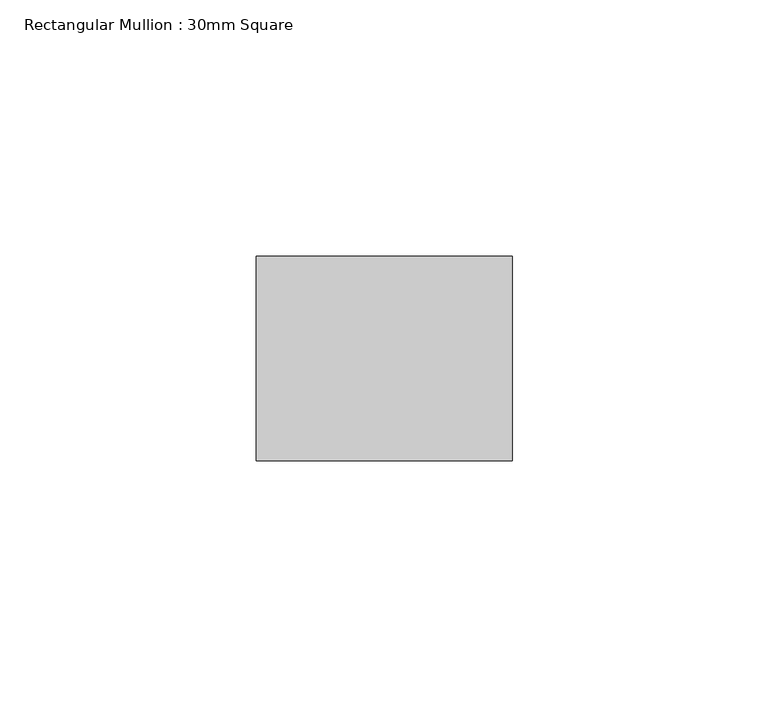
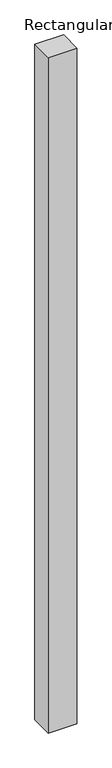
"""IFC4 building model written with IfcOpenShell, lengths in millimetres: member geometry, Rectangular Mullion : 30mm Square."""

import ifcopenshell
import ifcopenshell.guid

model = None  # the IFC model being written
_history = None  # IfcOwnerHistory: only IFC2X3 demands one
_inside = {}  # id of a spatial element -> (the spatial element, [elements in it])
_under = {}  # id of a project, library or spatial element -> (it, [spatial elements below it])
_declared = {}  # id of a project -> (the project, [libraries it declares])
_typed = {}  # id of a type object -> (the type object, [elements of that type])
_made_of = {}  # id of a material, layer set ... -> (it, [elements and type objects made of it])


def new_model(schema):
    """Start an empty IFC model of exactly this schema.

    Asked for "IFC4X3", IfcOpenShell would pick the latest addendum, in which some entities
    have other attributes; the version numbers below select the first issue.
    IFC2X3 requires an IfcOwnerHistory on every rooted entity: one is made here for all.
    """
    global model, _history
    if schema == "IFC4X3":
        model = ifcopenshell.file(schema_version=(4, 3, 0, 0))
    else:
        model = ifcopenshell.file(schema=schema)
    _inside.clear()
    _under.clear()
    _declared.clear()
    _typed.clear()
    _made_of.clear()
    _history = None
    if model.schema == "IFC2X3":
        org = make("IfcOrganization", Name="unknown")
        user = make(
            "IfcPersonAndOrganization",
            ThePerson=make("IfcPerson", FamilyName="unknown"),
            TheOrganization=org,
        )
        app = make(
            "IfcApplication",
            ApplicationDeveloper=org,
            Version="unknown",
            ApplicationFullName="unknown",
            ApplicationIdentifier="unknown",
        )
        _history = make(
            "IfcOwnerHistory",
            OwningUser=user,
            OwningApplication=app,
            ChangeAction="ADDED",
            CreationDate=0,
        )
    return model


def make(cls, **values):
    """One entity of the class cls with the attributes given. An attribute that is None is left unset."""
    return model.create_entity(
        cls, **{name: value for name, value in values.items() if value is not None}
    )


def rooted(cls, **values):
    """An entity with a GlobalId (a new one), such as an element, a storey or a relation."""
    return make(cls, GlobalId=ifcopenshell.guid.new(), OwnerHistory=_history, **values)


def si_unit(unit_type, name, prefix=None):
    """IfcSIUnit, for example si_unit("LENGTHUNIT", "METRE", prefix="MILLI")."""
    return make("IfcSIUnit", UnitType=unit_type, Prefix=prefix, Name=name)


def assignment(units):
    """IfcUnitAssignment: the units of a project."""
    return None if units is None else make("IfcUnitAssignment", Units=units)


def point(xyz):
    """IfcCartesianPoint."""
    return None if xyz is None else make("IfcCartesianPoint", Coordinates=xyz)


def direction(xyz):
    """IfcDirection."""
    return None if xyz is None else make("IfcDirection", DirectionRatios=xyz)


def frame(location, z_axis=None, x_axis=None):
    """IfcAxis2Placement3D, a coordinate frame: its origin and axes. An axis left out is left unset."""
    return make(
        "IfcAxis2Placement3D",
        Location=point(location),
        Axis=direction(z_axis),
        RefDirection=direction(x_axis),
    )


def origin():
    """The frame at (0, 0, 0) with its axes left unset."""
    return frame((0.0, 0.0, 0.0))


def place(relative_to, where):
    """IfcLocalPlacement: puts the frame where relative to a parent placement (None: the world)."""
    return make(
        "IfcLocalPlacement", PlacementRelTo=relative_to, RelativePlacement=where
    )


def context(
    kind, dimensions, precision=None, world=None, true_north=None, identifier=None
):
    """IfcGeometricRepresentationContext, for example the 3D "Model" context."""
    return make(
        "IfcGeometricRepresentationContext",
        ContextIdentifier=identifier,
        ContextType=kind,
        CoordinateSpaceDimension=dimensions,
        Precision=precision,
        WorldCoordinateSystem=world,
        TrueNorth=true_north,
    )


def project(units=None, contexts=None):
    """IfcProject with its units and contexts."""
    return rooted(
        "IfcProject",
        Name="project",
        RepresentationContexts=contexts,
        UnitsInContext=assignment(units),
    )


def spatial(cls, under=None, at=None, **own):
    """A site, building, storey or space (cls), placed at a placement, below another one or the project."""
    s = rooted(cls, ObjectPlacement=at, **own)
    if under is not None:
        _under.setdefault(under.id(), (under, []))[1].append(s)
    return s


def polyline(points):
    """IfcPolyline through the points."""
    return make("IfcPolyline", Points=[point(p) for p in points])


def outline(outer, holes=None, kind="AREA"):
    """IfcArbitraryClosedProfileDef: a profile drawn as a closed curve; with holes, ...WithVoids."""
    if holes is None:
        return make("IfcArbitraryClosedProfileDef", ProfileType=kind, OuterCurve=outer)
    return make(
        "IfcArbitraryProfileDefWithVoids",
        ProfileType=kind,
        OuterCurve=outer,
        InnerCurves=holes,
    )


def extrude(swept, where, along, depth):
    """IfcExtrudedAreaSolid: the profile swept, set in the frame where, extruded along a direction by depth."""
    return make(
        "IfcExtrudedAreaSolid",
        SweptArea=swept,
        Position=where,
        ExtrudedDirection=direction(along),
        Depth=depth,
    )


def shape(context_of_items, identifier, shape_type, items):
    """IfcShapeRepresentation: the items that make up one representation, for example the "Body"."""
    return make(
        "IfcShapeRepresentation",
        ContextOfItems=context_of_items,
        RepresentationIdentifier=identifier,
        RepresentationType=shape_type,
        Items=items,
    )


def source(mapping_origin, context_of_items, identifier, shape_type, items):
    """IfcRepresentationMap: a shape defined once, which mapped items show again and again."""
    return make(
        "IfcRepresentationMap",
        MappingOrigin=mapping_origin,
        MappedRepresentation=shape(context_of_items, identifier, shape_type, items),
    )


def transform(
    local_origin,
    x_axis=None,
    y_axis=None,
    z_axis=None,
    scale=None,
    scale2=None,
    scale3=None,
    uniform=True,
):
    """IfcCartesianTransformationOperator3D, or its non-uniform kind. x_axis, y_axis, z_axis: its Axis1, 2, 3."""
    if uniform:
        return make(
            "IfcCartesianTransformationOperator3D",
            Axis1=direction(x_axis),
            Axis2=direction(y_axis),
            LocalOrigin=point(local_origin),
            Scale=scale,
            Axis3=direction(z_axis),
        )
    return make(
        "IfcCartesianTransformationOperator3DnonUniform",
        Axis1=direction(x_axis),
        Axis2=direction(y_axis),
        LocalOrigin=point(local_origin),
        Scale=scale,
        Axis3=direction(z_axis),
        Scale2=scale2,
        Scale3=scale3,
    )


def mapped(mapping_source, mapping_target):
    """IfcMappedItem: shows the shape of a source again, moved by a transform."""
    return make(
        "IfcMappedItem", MappingSource=mapping_source, MappingTarget=mapping_target
    )


def made_of(thing, what):
    """Note that an element or type object is made of a material, layer set ...; save() writes the relation."""
    if what is not None:
        _made_of.setdefault(what.id(), (what, []))[1].append(thing)
    return thing


def element(
    cls,
    number,
    at=None,
    inside=None,
    cuts=None,
    type_object=None,
    material=None,
    context=None,
    identifier="Body",
    shape_type=None,
    held_by="IfcProductDefinitionShape",
    body=None,
    shapes=None,
    **own,
):
    """One element of the class cls, such as IfcWall. Its Tag is "e" and its number.

    at: its placement. inside: the storey or other place that contains it. cuts: it is an
    opening in that element (IfcRelVoidsElement). A single representation is given by context,
    identifier, shape_type and body (its items); several are given by shapes. held_by: the class
    of the entity that holds the representations. save() writes the other relations.
    """
    e = rooted(cls, Tag="e%d" % number, ObjectPlacement=at, **own)
    if body is not None:
        shapes = [shape(context, identifier, shape_type, body)]
    if shapes is not None:
        e.Representation = make(held_by, Representations=shapes)
    if inside is not None:
        _inside.setdefault(inside.id(), (inside, []))[1].append(e)
    if cuts is not None:
        rooted(
            "IfcRelVoidsElement", RelatingBuildingElement=cuts, RelatedOpeningElement=e
        )
    if type_object is not None:
        _typed.setdefault(type_object.id(), (type_object, []))[1].append(e)
    return made_of(e, material)


def aggregate(whole, parts):
    """IfcRelAggregates: a whole, such as a stair, and the parts it consists of."""
    return rooted("IfcRelAggregates", RelatingObject=whole, RelatedObjects=parts)


def save(model, path):
    """Write the relations noted so far, then the file.

    IfcRelAggregates (storeys below a building ...), IfcRelContainedInSpatialStructure (elements
    in a storey), IfcRelDefinesByType, IfcRelAssociatesMaterial and IfcRelDeclares: one each for
    every whole, place, type object, material and project.
    """
    for whole, parts in _under.values():
        aggregate(whole, parts)
    for where, things in _inside.values():
        rooted(
            "IfcRelContainedInSpatialStructure",
            RelatedElements=things,
            RelatingStructure=where,
        )
    for kind, things in _typed.values():
        rooted("IfcRelDefinesByType", RelatedObjects=things, RelatingType=kind)
    for what, things in _made_of.values():
        rooted("IfcRelAssociatesMaterial", RelatedObjects=things, RelatingMaterial=what)
    for by, libraries in _declared.values():
        rooted("IfcRelDeclares", RelatingContext=by, RelatedDefinitions=libraries)
    model.write(path)


def rectangular_mullion_30mm_square_7fbbedd8(model_context):
    return source(origin(), model_context, "Body", "SweptSolid", [
        extrude(outline(polyline([(25.0, 20.0), (25.0, -20.0), (-25.0, -20.0), (-25.0, 20.0), (25.0, 20.0)])), frame((0.0, 0.0, -1247.5), z_axis=(0.0, 0.0, 1.0), x_axis=(1.0, 0.0, 0.0)), (0.0, 0.0, 1.0), 1247.5),
    ])


if __name__ == "__main__":
    model = new_model("IFC4")
    model_context = context("Model", 3, world=origin())
    ifc_project = project(units=[si_unit("LENGTHUNIT", "METRE", prefix="MILLI")], contexts=[model_context])
    site = spatial("IfcSite", under=ifc_project)
    building = spatial("IfcBuilding", under=site)
    placement = place(None, origin())
    rectangular_mullion_30mm_square_shape = rectangular_mullion_30mm_square_7fbbedd8(model_context)
    element("IfcMember", 1, ObjectType="Rectangular Mullion : 30mm Square", at=placement, inside=building, context=model_context, shape_type="MappedRepresentation", body=[
        mapped(rectangular_mullion_30mm_square_shape, transform((0.0, 0.0, 0.0), x_axis=(1.0, 0.0, 0.0), y_axis=(0.0, 1.0, 0.0), z_axis=(0.0, 0.0, 1.0))),
    ])
    save(model, "model.ifc")
